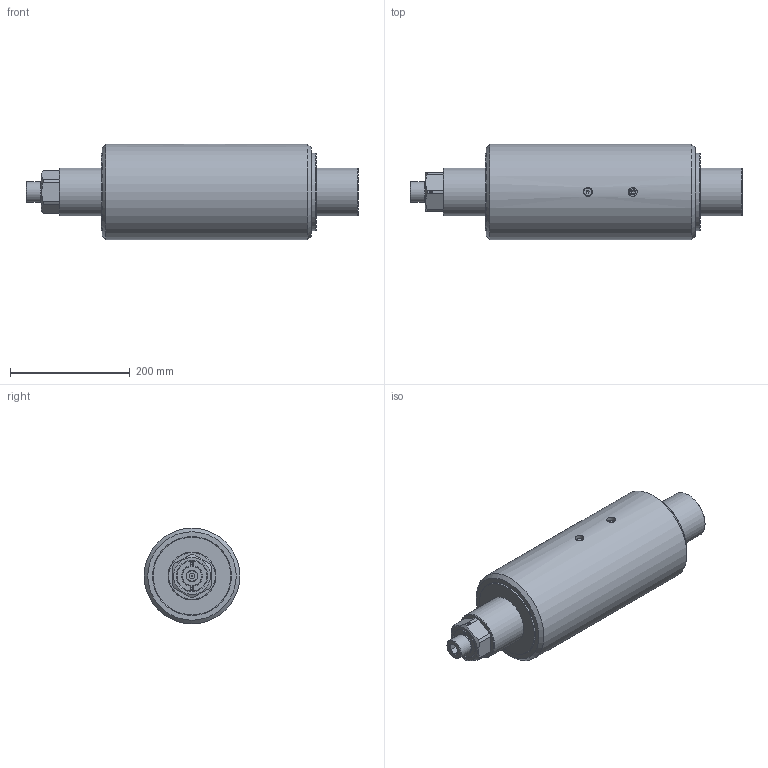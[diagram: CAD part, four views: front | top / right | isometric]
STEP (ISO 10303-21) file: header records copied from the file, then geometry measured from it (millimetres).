
FILE_DESCRIPTION( ( 'Unknown' ), '1' );
FILE_NAME( 'C:/Users/Wucherer/Desktop/MSPD 160 L1=360.stp', 'Unknown', ( 'Unknown' ), ( 'Unknown' ), 'PSStep 10.1', 'Unknown', ' ' );
FILE_SCHEMA( ( 'AUTOMOTIVE_DESIGN { 1 0 10303 214 1 1 1 1 }' ) );
Length unit declared in the file: millimetre
Products named in the file (2): AS-808-Spindelgehäuse
Bounding box: 555.5 x 160 x 160 mm (x, y, z)
Volume: 5641187.8 mm3; surface area: 509916.6 mm2
Topology: 2 solids, 4 shells, 208 faces, 454 edges, 284 vertices
Faces by surface type: plane 97, cylinder 54, cone 43, torus 12, sphere 2
Full cylindrical faces by diameter (mm): 2 x1, 4 x1, 5 x4, 8 x1, 8.566 x1, 8.85 x1, 10 x1, 10.2 x1, 12.1 x1, 12.5 x1, 14 x1, 15 x2, 21 x1, 26 x1, 30 x2, 30.5 x1, 34 x3, 39 x1, 40 x1, 50 x1, 50.5 x1, 56 x1, 58 x1, 80 x2, 90 x1, 100 x1, 120 x1, 122.5 x1, 126 x1, 130 x2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
Entity records: 7292 total; most frequent: CARTESIAN_POINT 1556, DIRECTION 874, ORIENTED_EDGE 644, AXIS2_PLACEMENT_3D 379, EDGE_LOOP 347, EDGE_CURVE 322, FACE_OUTER_BOUND 263, VERTEX_POINT 256
